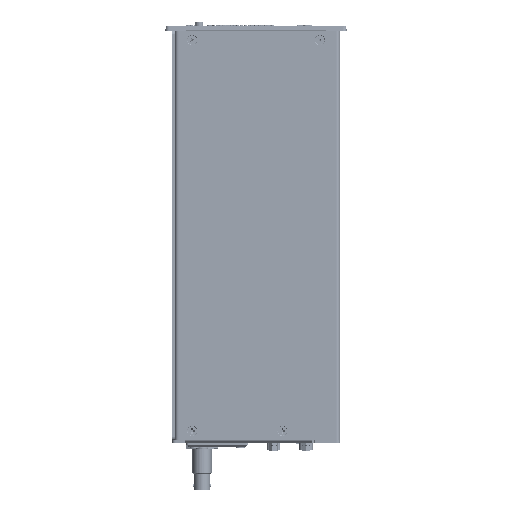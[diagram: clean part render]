
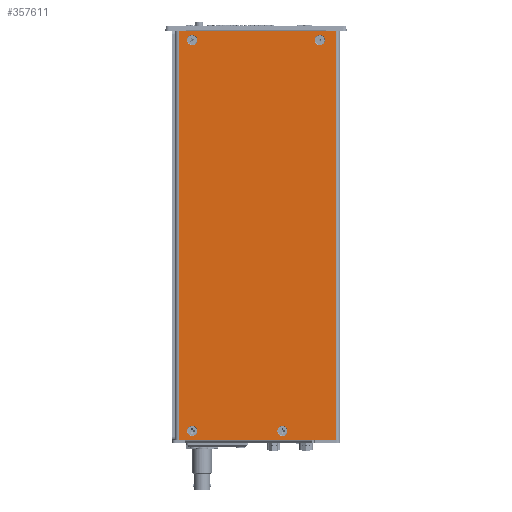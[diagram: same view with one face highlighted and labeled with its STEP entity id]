
A CAD part, front view. The second image highlights one B-rep face of the part: STEP entity #357611.
In plain terms, the highlighted planar face has unit normal (0, -1, 0).
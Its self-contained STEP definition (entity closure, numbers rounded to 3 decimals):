
#1593 = ORIENTED_EDGE ( 'NONE', *, *, #227359, .F. ) ;
#2373 = AXIS2_PLACEMENT_3D ( 'NONE', #228650, #518916, #270388 ) ;
#14732 = DIRECTION ( 'NONE',  ( 0., 1., 0. ) ) ;
#15002 = CARTESIAN_POINT ( 'NONE',  ( 46.95, -54.7, -0.15 ) ) ;
#22025 = EDGE_CURVE ( 'NONE', #86870, #406519, #55743, .T. ) ;
#23573 = FACE_BOUND ( 'NONE', #227571, .T. ) ;
#26680 = VERTEX_POINT ( 'NONE', #294996 ) ;
#35677 = LINE ( 'NONE', #422741, #132813 ) ;
#36509 = FACE_BOUND ( 'NONE', #90215, .T. ) ;
#40217 = VECTOR ( 'NONE', #229616, 1000. ) ;
#47755 = LINE ( 'NONE', #483814, #281197 ) ;
#50625 = DIRECTION ( 'NONE',  ( 0., -1., 0. ) ) ;
#55743 = CIRCLE ( 'NONE', #95599, 3. ) ;
#58955 = ORIENTED_EDGE ( 'NONE', *, *, #147821, .T. ) ;
#73313 = CARTESIAN_POINT ( 'NONE',  ( -45.45, -54.7, -0.15 ) ) ;
#78168 = VERTEX_POINT ( 'NONE', #121106 ) ;
#82906 = AXIS2_PLACEMENT_3D ( 'NONE', #473908, #225352, #515578 ) ;
#85876 = DIRECTION ( 'NONE',  ( -1., 0., 0. ) ) ;
#86870 = VERTEX_POINT ( 'NONE', #352714 ) ;
#90215 = EDGE_LOOP ( 'NONE', ( #1593, #133727 ) ) ;
#94016 = CARTESIAN_POINT ( 'NONE',  ( 37.5, -54.7, -5.5 ) ) ;
#95399 = CARTESIAN_POINT ( 'NONE',  ( 46.95, -54.7, 0. ) ) ;
#95599 = AXIS2_PLACEMENT_3D ( 'NONE', #94016, #394426, #500390 ) ;
#97173 = DIRECTION ( 'NONE',  ( -1., 0., 0. ) ) ;
#97244 = DIRECTION ( 'NONE',  ( 0., -1., 0. ) ) ;
#98362 = CARTESIAN_POINT ( 'NONE',  ( 15.5, -54.7, -235. ) ) ;
#113574 = VERTEX_POINT ( 'NONE', #360457 ) ;
#119339 = VECTOR ( 'NONE', #239129, 1000. ) ;
#120429 = EDGE_CURVE ( 'NONE', #26680, #283228, #219362, .T. ) ;
#121106 = CARTESIAN_POINT ( 'NONE',  ( -45.45, -54.7, -240.35 ) ) ;
#128422 = VERTEX_POINT ( 'NONE', #443152 ) ;
#132813 = VECTOR ( 'NONE', #381072, 1000. ) ;
#133727 = ORIENTED_EDGE ( 'NONE', *, *, #436130, .F. ) ;
#135418 = DIRECTION ( 'NONE',  ( 0., -1., 0. ) ) ;
#140062 = DIRECTION ( 'NONE',  ( -1., 0., 0. ) ) ;
#141143 = CIRCLE ( 'NONE', #451734, 3. ) ;
#141596 = CARTESIAN_POINT ( 'NONE',  ( 40.5, -54.7, -5.5 ) ) ;
#147821 = EDGE_CURVE ( 'NONE', #297700, #255061, #47755, .T. ) ;
#156737 = AXIS2_PLACEMENT_3D ( 'NONE', #240743, #530959, #282421 ) ;
#170480 = LINE ( 'NONE', #186215, #378411 ) ;
#170487 = VERTEX_POINT ( 'NONE', #302736 ) ;
#170722 = AXIS2_PLACEMENT_3D ( 'NONE', #98362, #388652, #140062 ) ;
#185601 = FACE_BOUND ( 'NONE', #190930, .T. ) ;
#186215 = CARTESIAN_POINT ( 'NONE',  ( 46.95, -54.7, -240.5 ) ) ;
#190930 = EDGE_LOOP ( 'NONE', ( #345368, #315065 ) ) ;
#192219 = LINE ( 'NONE', #407389, #289533 ) ;
#196869 = VERTEX_POINT ( 'NONE', #73313 ) ;
#199473 = LINE ( 'NONE', #334527, #309963 ) ;
#201138 = ORIENTED_EDGE ( 'NONE', *, *, #468631, .F. ) ;
#206886 = ORIENTED_EDGE ( 'NONE', *, *, #246117, .F. ) ;
#210265 = CARTESIAN_POINT ( 'NONE',  ( -45.45, -54.7, 0. ) ) ;
#217794 = EDGE_CURVE ( 'NONE', #496956, #113574, #199473, .T. ) ;
#219362 = LINE ( 'NONE', #95399, #440162 ) ;
#221207 = CARTESIAN_POINT ( 'NONE',  ( 46.95, -54.7, -240.5 ) ) ;
#222922 = ORIENTED_EDGE ( 'NONE', *, *, #217794, .F. ) ;
#225352 = DIRECTION ( 'NONE',  ( 0., -1., 0. ) ) ;
#226063 = ORIENTED_EDGE ( 'NONE', *, *, #358087, .F. ) ;
#227359 = EDGE_CURVE ( 'NONE', #417458, #314411, #435808, .T. ) ;
#227571 = EDGE_LOOP ( 'NONE', ( #295202, #226063 ) ) ;
#227959 = DIRECTION ( 'NONE',  ( 0., 0., -1. ) ) ;
#228650 = CARTESIAN_POINT ( 'NONE',  ( -37.5, -54.7, -5.5 ) ) ;
#229616 = DIRECTION ( 'NONE',  ( 0., 0., 1. ) ) ;
#231984 = CARTESIAN_POINT ( 'NONE',  ( 12.5, -54.7, -235. ) ) ;
#235294 = DIRECTION ( 'NONE',  ( 0., 0., 1. ) ) ;
#239129 = DIRECTION ( 'NONE',  ( 0., 0., 1. ) ) ;
#240743 = CARTESIAN_POINT ( 'NONE',  ( 15.5, -54.7, -235. ) ) ;
#243897 = FACE_BOUND ( 'NONE', #520359, .T. ) ;
#246117 = EDGE_CURVE ( 'NONE', #374349, #128422, #426893, .T. ) ;
#248294 = EDGE_CURVE ( 'NONE', #26680, #255061, #170480, .T. ) ;
#255061 = VERTEX_POINT ( 'NONE', #15002 ) ;
#258079 = CARTESIAN_POINT ( 'NONE',  ( 46.95, -54.7, -240.35 ) ) ;
#260635 = LINE ( 'NONE', #394867, #40217 ) ;
#268054 = EDGE_CURVE ( 'NONE', #128422, #374349, #340892, .T. ) ;
#270388 = DIRECTION ( 'NONE',  ( -1., 0., 0. ) ) ;
#281197 = VECTOR ( 'NONE', #235294, 1000. ) ;
#282421 = DIRECTION ( 'NONE',  ( -1., 0., 0. ) ) ;
#283228 = VERTEX_POINT ( 'NONE', #210265 ) ;
#289533 = VECTOR ( 'NONE', #490811, 1000. ) ;
#291328 = CARTESIAN_POINT ( 'NONE',  ( -40.5, -54.7, -5.5 ) ) ;
#294996 = CARTESIAN_POINT ( 'NONE',  ( 46.95, -54.7, 0. ) ) ;
#295202 = ORIENTED_EDGE ( 'NONE', *, *, #22025, .F. ) ;
#297700 = VERTEX_POINT ( 'NONE', #258079 ) ;
#298889 = CARTESIAN_POINT ( 'NONE',  ( -37.5, -54.7, -5.5 ) ) ;
#302736 = CARTESIAN_POINT ( 'NONE',  ( -34.5, -54.7, -5.5 ) ) ;
#304108 = VERTEX_POINT ( 'NONE', #291328 ) ;
#304673 = DIRECTION ( 'NONE',  ( 1., 0., 0. ) ) ;
#309963 = VECTOR ( 'NONE', #85876, 1000. ) ;
#313844 = AXIS2_PLACEMENT_3D ( 'NONE', #221207, #14732, #304673 ) ;
#314411 = VERTEX_POINT ( 'NONE', #461393 ) ;
#315065 = ORIENTED_EDGE ( 'NONE', *, *, #520902, .F. ) ;
#323651 = EDGE_CURVE ( 'NONE', #496956, #297700, #35677, .T. ) ;
#323967 = ORIENTED_EDGE ( 'NONE', *, *, #327898, .F. ) ;
#324724 = ORIENTED_EDGE ( 'NONE', *, *, #513340, .F. ) ;
#327898 = EDGE_CURVE ( 'NONE', #113574, #78168, #340168, .T. ) ;
#328018 = EDGE_LOOP ( 'NONE', ( #487724, #324724, #201138, #323967, #222922, #479631, #58955, #393335 ) ) ;
#334527 = CARTESIAN_POINT ( 'NONE',  ( 46.95, -54.7, -240.5 ) ) ;
#340168 = LINE ( 'NONE', #402567, #119339 ) ;
#340815 = DIRECTION ( 'NONE',  ( -1., 0., 0. ) ) ;
#340892 = CIRCLE ( 'NONE', #156737, 3. ) ;
#345368 = ORIENTED_EDGE ( 'NONE', *, *, #354967, .F. ) ;
#345877 = CARTESIAN_POINT ( 'NONE',  ( -37.5, -54.7, -235. ) ) ;
#352714 = CARTESIAN_POINT ( 'NONE',  ( 34.5, -54.7, -5.5 ) ) ;
#354967 = EDGE_CURVE ( 'NONE', #304108, #170487, #447508, .T. ) ;
#357611 = ADVANCED_FACE ( 'NONE', ( #36509, #23573, #185601, #243897, #451727 ), #511469, .F. ) ;
#358087 = EDGE_CURVE ( 'NONE', #406519, #86870, #490145, .T. ) ;
#360457 = CARTESIAN_POINT ( 'NONE',  ( -45.45, -54.7, -240.5 ) ) ;
#370847 = CARTESIAN_POINT ( 'NONE',  ( 46.95, -54.7, -240.5 ) ) ;
#374349 = VERTEX_POINT ( 'NONE', #231984 ) ;
#378411 = VECTOR ( 'NONE', #227959, 1000. ) ;
#381072 = DIRECTION ( 'NONE',  ( 0., 0., 1. ) ) ;
#384020 = CARTESIAN_POINT ( 'NONE',  ( 37.5, -54.7, -5.5 ) ) ;
#387547 = DIRECTION ( 'NONE',  ( -1., 0., 0. ) ) ;
#388652 = DIRECTION ( 'NONE',  ( 0., -1., 0. ) ) ;
#393335 = ORIENTED_EDGE ( 'NONE', *, *, #248294, .F. ) ;
#394426 = DIRECTION ( 'NONE',  ( 0., -1., 0. ) ) ;
#394867 = CARTESIAN_POINT ( 'NONE',  ( -45.45, -54.7, -240.5 ) ) ;
#396980 = CIRCLE ( 'NONE', #423525, 3. ) ;
#402567 = CARTESIAN_POINT ( 'NONE',  ( -45.45, -54.7, -240.5 ) ) ;
#406519 = VERTEX_POINT ( 'NONE', #141596 ) ;
#407389 = CARTESIAN_POINT ( 'NONE',  ( -45.45, -54.7, -240.5 ) ) ;
#414626 = AXIS2_PLACEMENT_3D ( 'NONE', #384020, #135418, #425623 ) ;
#417458 = VERTEX_POINT ( 'NONE', #512847 ) ;
#422741 = CARTESIAN_POINT ( 'NONE',  ( 46.95, -54.7, -240.5 ) ) ;
#423525 = AXIS2_PLACEMENT_3D ( 'NONE', #345877, #97244, #387547 ) ;
#425623 = DIRECTION ( 'NONE',  ( -1., 0., 0. ) ) ;
#426893 = CIRCLE ( 'NONE', #170722, 3. ) ;
#435808 = CIRCLE ( 'NONE', #82906, 3. ) ;
#436130 = EDGE_CURVE ( 'NONE', #314411, #417458, #396980, .T. ) ;
#440162 = VECTOR ( 'NONE', #97173, 1000. ) ;
#443152 = CARTESIAN_POINT ( 'NONE',  ( 18.5, -54.7, -235. ) ) ;
#447508 = CIRCLE ( 'NONE', #2373, 3. ) ;
#451727 = FACE_OUTER_BOUND ( 'NONE', #328018, .T. ) ;
#451734 = AXIS2_PLACEMENT_3D ( 'NONE', #298889, #50625, #340815 ) ;
#456504 = ORIENTED_EDGE ( 'NONE', *, *, #268054, .F. ) ;
#461393 = CARTESIAN_POINT ( 'NONE',  ( -34.5, -54.7, -235. ) ) ;
#468631 = EDGE_CURVE ( 'NONE', #78168, #196869, #260635, .T. ) ;
#473908 = CARTESIAN_POINT ( 'NONE',  ( -37.5, -54.7, -235. ) ) ;
#479631 = ORIENTED_EDGE ( 'NONE', *, *, #323651, .T. ) ;
#483814 = CARTESIAN_POINT ( 'NONE',  ( 46.95, -54.7, -240.5 ) ) ;
#487724 = ORIENTED_EDGE ( 'NONE', *, *, #120429, .T. ) ;
#490145 = CIRCLE ( 'NONE', #414626, 3. ) ;
#490811 = DIRECTION ( 'NONE',  ( 0., 0., 1. ) ) ;
#496956 = VERTEX_POINT ( 'NONE', #370847 ) ;
#500390 = DIRECTION ( 'NONE',  ( -1., 0., 0. ) ) ;
#511469 = PLANE ( 'NONE',  #313844 ) ;
#512847 = CARTESIAN_POINT ( 'NONE',  ( -40.5, -54.7, -235. ) ) ;
#513340 = EDGE_CURVE ( 'NONE', #196869, #283228, #192219, .T. ) ;
#515578 = DIRECTION ( 'NONE',  ( -1., 0., 0. ) ) ;
#518916 = DIRECTION ( 'NONE',  ( 0., -1., 0. ) ) ;
#520359 = EDGE_LOOP ( 'NONE', ( #206886, #456504 ) ) ;
#520902 = EDGE_CURVE ( 'NONE', #170487, #304108, #141143, .T. ) ;
#530959 = DIRECTION ( 'NONE',  ( 0., -1., 0. ) ) ;
